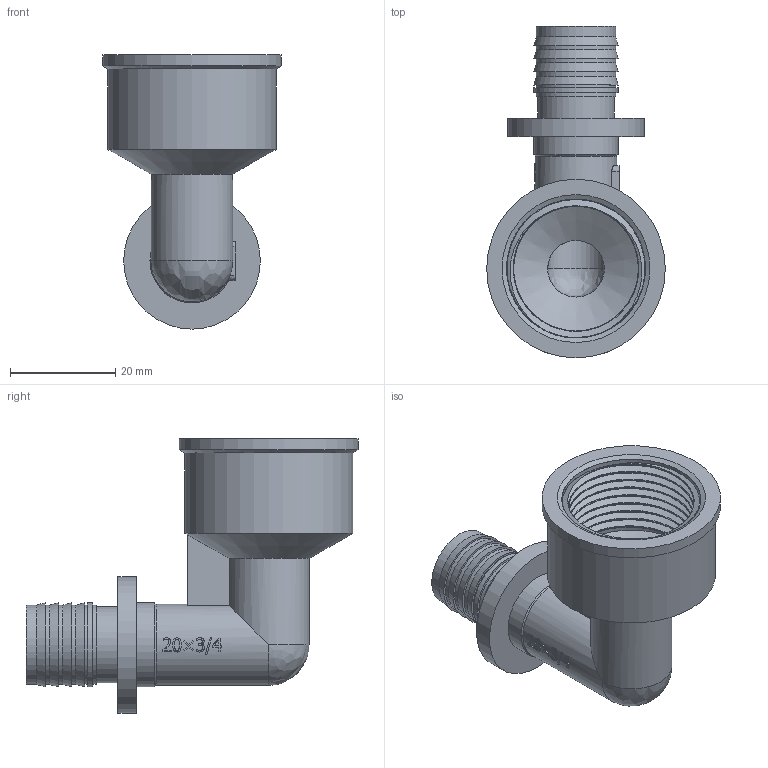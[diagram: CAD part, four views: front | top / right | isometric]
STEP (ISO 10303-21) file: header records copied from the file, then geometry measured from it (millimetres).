
FILE_DESCRIPTION(/* description */ (''),/* implementation_level */ '2;1');
FILE_NAME(/* name */ 'C:\Users\Doom\Desktop\Фадотех\Натяжка\FD-SFU24 NEW 20x0.75F 18.12.2019\FD-SFU24 NEW 20x0.75F 18.12.2019.stp',/* time_stamp */ '2022-07-25T00:19:04+03:00',/* author */ ('Doom'),/* organization */ (''),/* preprocessor_version */ 'ST-DEVELOPER v18',/* originating_system */ 'Autodesk Inventor 2020',/* authorisation */ '');
FILE_SCHEMA (('AUTOMOTIVE_DESIGN { 1 0 10303 214 3 1 1 }'));
Length unit declared in the file: millimetre
Products named in the file (1): FD-SFU24 NEW 20x0.75F 18.12.2019
Bounding box: 34 x 63.2 x 52.2 mm (x, y, z)
Volume: 16059.5 mm3; surface area: 15219.9 mm2
Topology: 2 solids, 2 shells, 187 faces, 521 edges, 351 vertices
Faces by surface type: bspline 74, plane 65, cylinder 38, cone 10
Full cylindrical faces by diameter (mm): 10.8 x2, 14.5 x1, 15.1 x6, 15.5 x1, 16 x2, 23.75 x10, 26 x1, 26.44 x2, 32 x1, 34 x1
Entity records: 12093 total; most frequent: CARTESIAN_POINT 7699, ORIENTED_EDGE 1026, DIRECTION 693, EDGE_CURVE 513, VERTEX_POINT 349, AXIS2_PLACEMENT_3D 236, LINE 221, VECTOR 221
